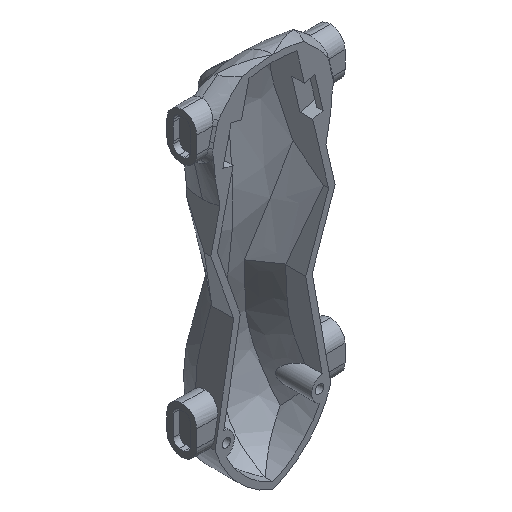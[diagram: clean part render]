
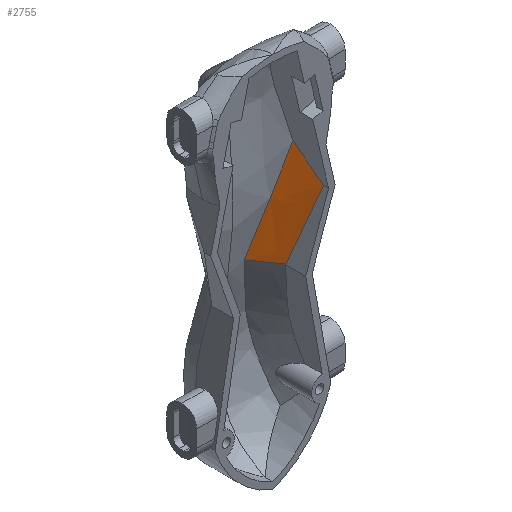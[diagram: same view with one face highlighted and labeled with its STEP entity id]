
A CAD part, isometric view. The second image highlights one B-rep face of the part: STEP entity #2755.
In plain terms, the highlighted free-form (B-spline) face has degree [3, 3] with [4, 10] control points.
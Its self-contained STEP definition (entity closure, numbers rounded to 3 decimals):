
#66=B_SPLINE_SURFACE_WITH_KNOTS('',3,3,((#13472,#13473,#13474,#13475,#13476,
#13477,#13478,#13479,#13480,#13481),(#13482,#13483,#13484,#13485,#13486,
#13487,#13488,#13489,#13490,#13491),(#13492,#13493,#13494,#13495,#13496,
#13497,#13498,#13499,#13500,#13501),(#13502,#13503,#13504,#13505,#13506,
#13507,#13508,#13509,#13510,#13511)),.UNSPECIFIED.,.F.,.F.,.F.,(4,4),(4,
1,1,1,1,1,1,4),(0.051,0.949),(-3.585,
-3.254,-2.923,-2.26,-0.935,
-0.272,0.39,1.053),.UNSPECIFIED.);
#201=B_SPLINE_CURVE_WITH_KNOTS('',3,(#12416,#12417,#12418,#12419,#12420,
#12421),.UNSPECIFIED.,.F.,.F.,(4,2,4),(-1.381,-0.691,
0.),.UNSPECIFIED.);
#204=B_SPLINE_CURVE_WITH_KNOTS('',3,(#12464,#12465,#12466,#12467,#12468,
#12469),.UNSPECIFIED.,.F.,.F.,(4,2,4),(-1.838,-0.919,
0.),.UNSPECIFIED.);
#218=B_SPLINE_CURVE_WITH_KNOTS('',3,(#13512,#13513,#13514,#13515,#13516,
#13517,#13518,#13519),.UNSPECIFIED.,.F.,.F.,(4,2,2,4),(-4.345,
-3.246,-2.177,0.),.UNSPECIFIED.);
#219=B_SPLINE_CURVE_WITH_KNOTS('',3,(#13521,#13522,#13523,#13524,#13525,
#13526),.UNSPECIFIED.,.F.,.F.,(4,2,4),(-0.025,-0.012,
0.),.UNSPECIFIED.);
#220=B_SPLINE_CURVE_WITH_KNOTS('',3,(#13527,#13528,#13529,#13530,#13531,
#13532),.UNSPECIFIED.,.F.,.F.,(4,2,4),(-3.405,-1.702,
0.),.UNSPECIFIED.);
#539=FACE_OUTER_BOUND('',#690,.T.);
#690=EDGE_LOOP('',(#2507,#2508,#2509,#2510,#2511));
#1392=VERTEX_POINT('',#12413);
#1393=VERTEX_POINT('',#12415);
#1395=VERTEX_POINT('',#12448);
#1396=VERTEX_POINT('',#12463);
#1408=VERTEX_POINT('',#13520);
#1766=EDGE_CURVE('',#1392,#1393,#201,.F.);
#1770=EDGE_CURVE('',#1395,#1396,#204,.T.);
#1793=EDGE_CURVE('',#1393,#1395,#218,.T.);
#1794=EDGE_CURVE('',#1408,#1392,#219,.F.);
#1795=EDGE_CURVE('',#1396,#1408,#220,.T.);
#2507=ORIENTED_EDGE('',*,*,#1793,.F.);
#2508=ORIENTED_EDGE('',*,*,#1766,.F.);
#2509=ORIENTED_EDGE('',*,*,#1794,.F.);
#2510=ORIENTED_EDGE('',*,*,#1795,.F.);
#2511=ORIENTED_EDGE('',*,*,#1770,.F.);
#2755=ADVANCED_FACE('',(#539),#66,.F.);
#12413=CARTESIAN_POINT('',(15.422,9.538,-18.075));
#12415=CARTESIAN_POINT('',(6.885,20.368,-17.519));
#12416=CARTESIAN_POINT('Ctrl Pts',(6.886,20.366,-17.519));
#12417=CARTESIAN_POINT('Ctrl Pts',(8.33,18.582,-17.726));
#12418=CARTESIAN_POINT('Ctrl Pts',(9.759,16.792,-17.883));
#12419=CARTESIAN_POINT('Ctrl Pts',(12.611,13.175,-18.075));
#12420=CARTESIAN_POINT('Ctrl Pts',(14.02,11.363,-18.109));
#12421=CARTESIAN_POINT('Ctrl Pts',(15.422,9.538,-18.075));
#12448=CARTESIAN_POINT('',(22.873,13.412,26.603));
#12463=CARTESIAN_POINT('',(26.218,2.362,12.324));
#12464=CARTESIAN_POINT('Ctrl Pts',(22.873,13.412,26.603));
#12465=CARTESIAN_POINT('Ctrl Pts',(23.417,11.492,24.279));
#12466=CARTESIAN_POINT('Ctrl Pts',(23.967,9.606,21.932));
#12467=CARTESIAN_POINT('Ctrl Pts',(25.083,5.912,17.17));
#12468=CARTESIAN_POINT('Ctrl Pts',(25.645,4.116,14.769));
#12469=CARTESIAN_POINT('Ctrl Pts',(26.218,2.362,12.324));
#13472=CARTESIAN_POINT('Ctrl Pts',(13.951,10.597,-23.19));
#13473=CARTESIAN_POINT('Ctrl Pts',(14.353,10.256,-22.014));
#13474=CARTESIAN_POINT('Ctrl Pts',(15.175,9.578,-19.616));
#13475=CARTESIAN_POINT('Ctrl Pts',(16.786,8.323,-14.928));
#13476=CARTESIAN_POINT('Ctrl Pts',(19.461,6.412,-7.173));
#13477=CARTESIAN_POINT('Ctrl Pts',(22.3,4.659,1.023));
#13478=CARTESIAN_POINT('Ctrl Pts',(25.085,3.03,9.059));
#13479=CARTESIAN_POINT('Ctrl Pts',(27.202,1.786,15.161));
#13480=CARTESIAN_POINT('Ctrl Pts',(28.575,0.927,19.116));
#13481=CARTESIAN_POINT('Ctrl Pts',(29.253,0.477,21.067));
#13482=CARTESIAN_POINT('Ctrl Pts',(11.516,13.96,-21.238));
#13483=CARTESIAN_POINT('Ctrl Pts',(11.923,13.654,-20.069));
#13484=CARTESIAN_POINT('Ctrl Pts',(12.752,13.048,-17.689));
#13485=CARTESIAN_POINT('Ctrl Pts',(14.376,11.928,-13.047));
#13486=CARTESIAN_POINT('Ctrl Pts',(17.074,10.214,-5.37));
#13487=CARTESIAN_POINT('Ctrl Pts',(19.949,8.626,2.765));
#13488=CARTESIAN_POINT('Ctrl Pts',(22.8,7.148,10.794));
#13489=CARTESIAN_POINT('Ctrl Pts',(24.985,6.01,16.927));
#13490=CARTESIAN_POINT('Ctrl Pts',(26.416,5.211,20.931));
#13491=CARTESIAN_POINT('Ctrl Pts',(27.126,4.787,22.915));
#13492=CARTESIAN_POINT('Ctrl Pts',(9.083,17.324,-19.286));
#13493=CARTESIAN_POINT('Ctrl Pts',(9.494,17.053,-18.122));
#13494=CARTESIAN_POINT('Ctrl Pts',(10.331,16.519,-15.759));
#13495=CARTESIAN_POINT('Ctrl Pts',(11.968,15.534,-11.164));
#13496=CARTESIAN_POINT('Ctrl Pts',(14.689,14.016,-3.567));
#13497=CARTESIAN_POINT('Ctrl Pts',(17.6,12.593,4.507));
#13498=CARTESIAN_POINT('Ctrl Pts',(20.515,11.266,12.53));
#13499=CARTESIAN_POINT('Ctrl Pts',(22.768,10.236,18.691));
#13500=CARTESIAN_POINT('Ctrl Pts',(24.258,9.497,22.744));
#13501=CARTESIAN_POINT('Ctrl Pts',(25.,9.099,24.76));
#13502=CARTESIAN_POINT('Ctrl Pts',(6.653,20.689,-17.332));
#13503=CARTESIAN_POINT('Ctrl Pts',(7.068,20.452,-16.174));
#13504=CARTESIAN_POINT('Ctrl Pts',(7.913,19.99,-13.827));
#13505=CARTESIAN_POINT('Ctrl Pts',(9.561,19.14,-9.279));
#13506=CARTESIAN_POINT('Ctrl Pts',(12.305,17.818,-1.763));
#13507=CARTESIAN_POINT('Ctrl Pts',(15.252,16.561,6.249));
#13508=CARTESIAN_POINT('Ctrl Pts',(18.232,15.385,14.265));
#13509=CARTESIAN_POINT('Ctrl Pts',(20.552,14.462,20.454));
#13510=CARTESIAN_POINT('Ctrl Pts',(22.099,13.784,24.555));
#13511=CARTESIAN_POINT('Ctrl Pts',(22.873,13.412,26.604));
#13512=CARTESIAN_POINT('Ctrl Pts',(6.884,20.369,-17.517));
#13513=CARTESIAN_POINT('Ctrl Pts',(8.187,19.635,-13.787));
#13514=CARTESIAN_POINT('Ctrl Pts',(9.578,18.94,-9.886));
#13515=CARTESIAN_POINT('Ctrl Pts',(12.265,17.692,-2.374));
#13516=CARTESIAN_POINT('Ctrl Pts',(13.647,17.094,1.456));
#13517=CARTESIAN_POINT('Ctrl Pts',(18.051,15.324,13.595));
#13518=CARTESIAN_POINT('Ctrl Pts',(20.374,14.569,19.888));
#13519=CARTESIAN_POINT('Ctrl Pts',(22.873,13.412,26.603));
#13520=CARTESIAN_POINT('',(15.462,9.444,-18.302));
#13521=CARTESIAN_POINT('Ctrl Pts',(15.422,9.537,-18.075));
#13522=CARTESIAN_POINT('Ctrl Pts',(15.429,9.522,-18.113));
#13523=CARTESIAN_POINT('Ctrl Pts',(15.436,9.506,-18.151));
#13524=CARTESIAN_POINT('Ctrl Pts',(15.449,9.475,-18.227));
#13525=CARTESIAN_POINT('Ctrl Pts',(15.456,9.46,-18.264));
#13526=CARTESIAN_POINT('Ctrl Pts',(15.462,9.444,-18.302));
#13527=CARTESIAN_POINT('Ctrl Pts',(26.218,2.362,12.324));
#13528=CARTESIAN_POINT('Ctrl Pts',(24.559,3.366,7.599));
#13529=CARTESIAN_POINT('Ctrl Pts',(22.708,4.442,2.329));
#13530=CARTESIAN_POINT('Ctrl Pts',(19.055,6.772,-8.071));
#13531=CARTESIAN_POINT('Ctrl Pts',(17.28,8.003,-13.126));
#13532=CARTESIAN_POINT('Ctrl Pts',(15.462,9.444,-18.302));
